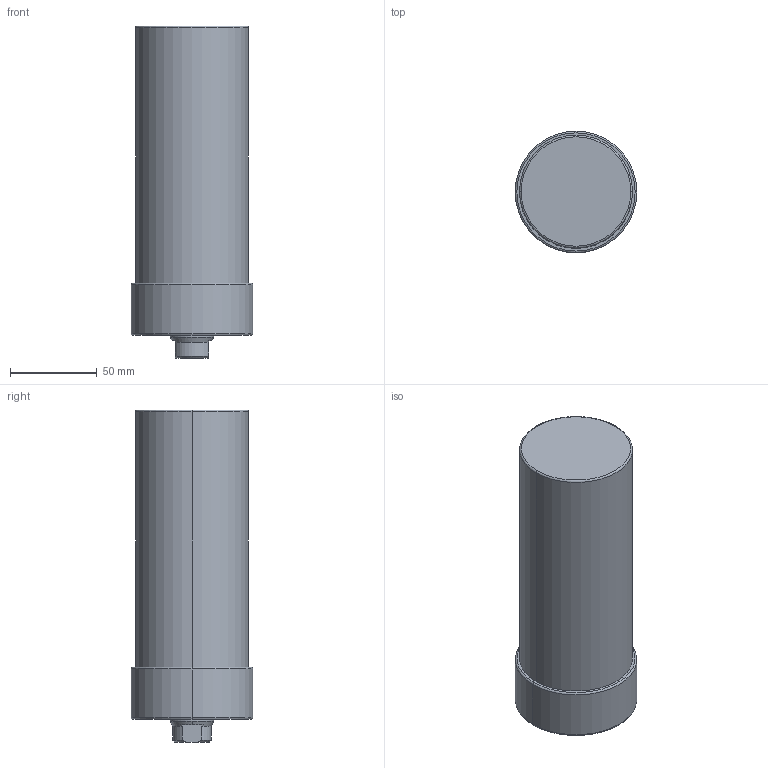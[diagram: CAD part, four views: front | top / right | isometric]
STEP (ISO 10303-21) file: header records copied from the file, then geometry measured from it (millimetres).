
FILE_DESCRIPTION (( 'STEP AP203' ), '1' );
FILE_NAME ('CLLU-065GA-115.STEP', '2020-01-07T00:11:46', ( '' ), ( '' ), 'SwSTEP 2.0', 'SolidWorks 2015', '' );
FILE_SCHEMA (( 'CONFIG_CONTROL_DESIGN' ));
Length unit declared in the file: millimetre
Products named in the file (1): CLLU-065GA-115
Bounding box: 70 x 70 x 191 mm (x, y, z)
Volume: 606997.4 mm3; surface area: 47246.7 mm2
Topology: 1 solids, 1 shells, 62 faces, 140 edges, 79 vertices
Faces by surface type: cone 24, cylinder 22, plane 10, torus 6
Entity records: 1751 total; most frequent: DIRECTION 320, CARTESIAN_POINT 300, ORIENTED_EDGE 260, AXIS2_PLACEMENT_3D 135, EDGE_CURVE 130, VERTEX_POINT 79, CIRCLE 72, EDGE_LOOP 71
